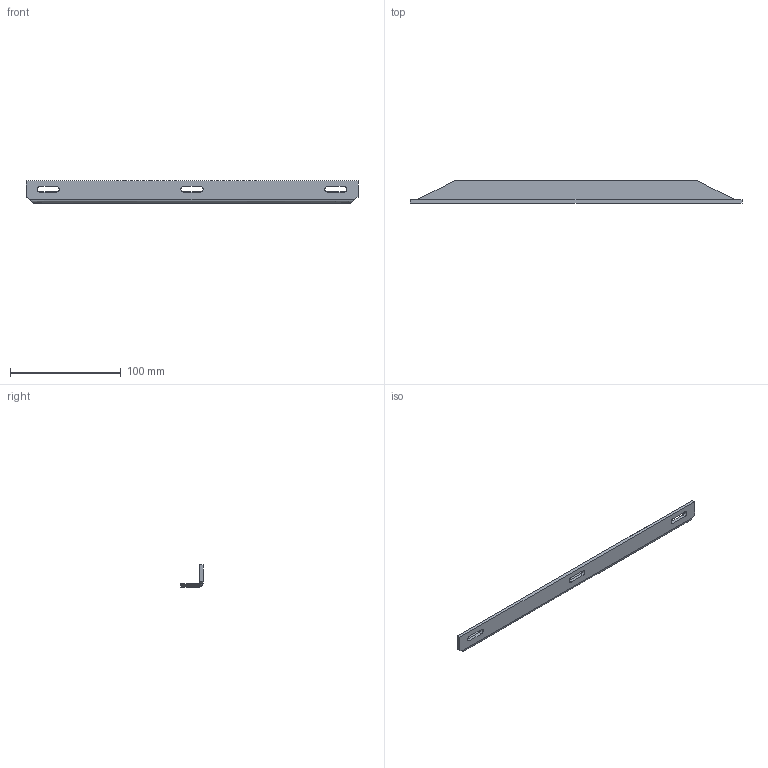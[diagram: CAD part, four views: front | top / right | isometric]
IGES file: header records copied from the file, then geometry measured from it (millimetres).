
Start section: SolidWorks IGES file using analytic representation for surfaces
Bounding box: 300 x 20 x 20 mm (x, y, z)
Surface area: 21855.7 mm2 (no closed solid volume)
Topology: 0 solids, 0 shells, 80 faces, 742 edges, 742 vertices
Faces by surface type: bspline 66, revolution 14
